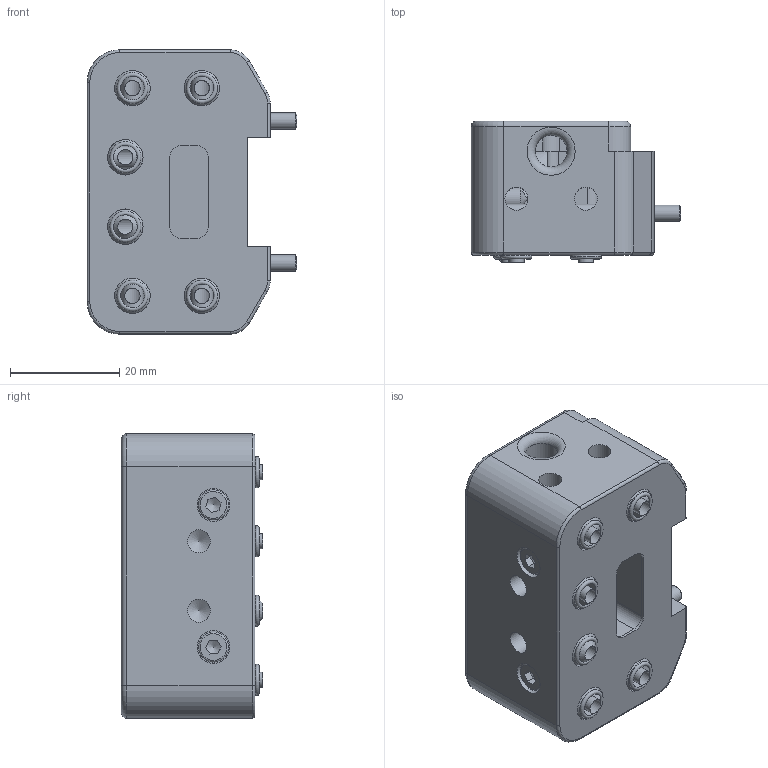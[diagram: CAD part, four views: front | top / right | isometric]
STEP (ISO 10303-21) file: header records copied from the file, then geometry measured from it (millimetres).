
FILE_DESCRIPTION(/* description */ (''),/* implementation_level */ '2;1');
FILE_NAME(/* name */ 'T:\CAD\Standard\SHW\SEK-P\SEK100\SEK100-6PM5-1FE12\G-SEK100-O-6PM5.stp',/* time_stamp */ '2022-02-15T14:40:01+01:00',/* author */ ('vbednarz'),/* organization */ (''),/* preprocessor_version */ 'ST-DEVELOPER v17',/* originating_system */ 'Autodesk Inventor 2018',/* authorisation */ '');
FILE_SCHEMA (('AUTOMOTIVE_DESIGN { 1 0 10303 214 3 1 1 }'));
Length unit declared in the file: millimetre
Products named in the file (1): G-SEK100-O-6PM5-1FE12-300-M8.step
Bounding box: 38.4 x 25.85 x 52 mm (x, y, z)
Volume: 32332.3 mm3; surface area: 12574 mm2
Topology: 3 solids, 17 shells, 270 faces, 757 edges, 522 vertices
Faces by surface type: plane 105, cylinder 88, cone 44, torus 31, bspline 2
Full cylindrical faces by diameter (mm): 1.8 x2, 2.02 x2, 2.05 x4, 2.5 x4, 2.8 x6, 2.9 x4, 3 x2, 3.4 x2, 4.2 x6, 4.5 x4, 5 x4, 5.5 x2, 5.8 x1, 6 x2, 6.5 x12
Entity records: 9904 total; most frequent: CARTESIAN_POINT 2366, DIRECTION 1588, ORIENTED_EDGE 1478, EDGE_CURVE 739, AXIS2_PLACEMENT_3D 647, VERTEX_POINT 522, CIRCLE 378, EDGE_LOOP 327
